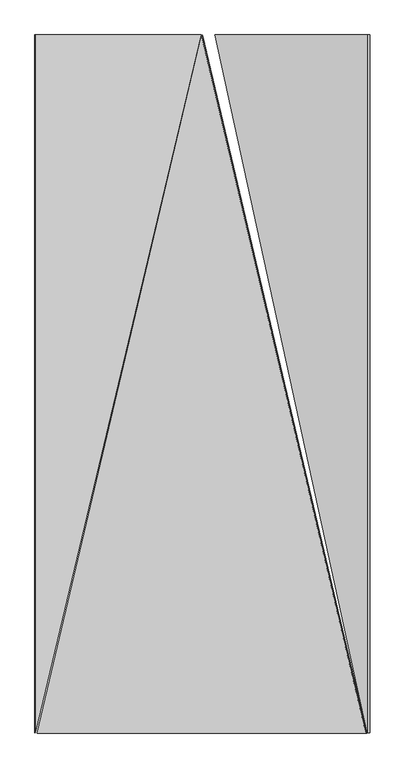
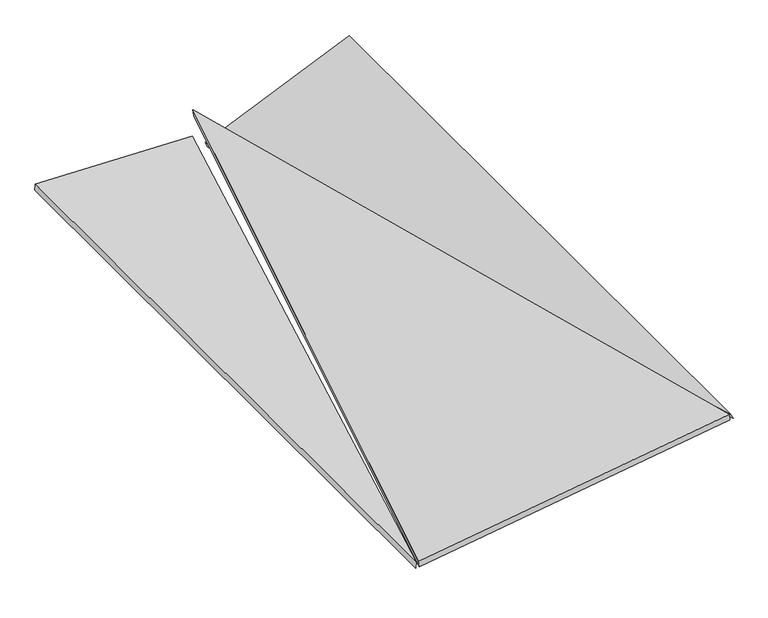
"""IFC4 building model written with IfcOpenShell, lengths in millimetres: proxy geometry, panel sufitowy 6 : panel sufitowy 6."""

from ifc_helpers import new_model, si_unit, frame, origin, place, context, project, spatial, polyline, outline, extrude, source, transform, mapped, element, save


def generic_models_bd13cf26(model_context):
    return source(origin(), model_context, "Body", "SweptSolid", [
        extrude(outline(polyline([(-900.9098917, 0.0), (1006.190989, 962.7191945), (1235.4098448, 0.0), (-900.9098917, 0.0)])), frame((548.5075406, 1457.4151922, 1266.4156755), z_axis=(-0.14780941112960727, 0.0, 0.9890158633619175), x_axis=(-0.22907637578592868, -0.9728062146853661, -0.03423569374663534)), (0.0, 0.0, 1.0), 20.0),
        extrude(outline(polyline([(-127.5, 0.0), (-127.5, -2079.0), (-622.5, 0.0), (-127.5, 0.0)])), frame((1370.9864149, 2335.0, 1422.701891), z_axis=(-0.398749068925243, 0.0, 0.9170600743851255), x_axis=(0.9170600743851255, 0.0, 0.398749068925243)), (0.0, 0.0, 1.0), 20.0),
        extrude(outline(polyline([(-127.5000001, 0.0), (-622.5, 0.0), (-127.5000001, 2079.0), (-127.5000001, 0.0)])), frame((127.6989244, 2335.0, 1225.9114404), z_axis=(0.02617694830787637, 0.0, 0.9996573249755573), x_axis=(-0.9996573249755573, 0.0, 0.02617694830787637)), (0.0, 0.0, 1.0), 20.0),
    ])


if __name__ == "__main__":
    model = new_model("IFC4")
    model_context = context("Model", 3, world=origin())
    ifc_project = project(units=[si_unit("LENGTHUNIT", "METRE", prefix="MILLI")], contexts=[model_context])
    site = spatial("IfcSite", under=ifc_project)
    building = spatial("IfcBuilding", under=site)
    placement = place(None, origin())
    generic_models_shape = generic_models_bd13cf26(model_context)
    element("IfcBuildingElementProxy", 1, Name="panel sufitowy 6 : panel sufitowy 6", ObjectType="panel sufitowy 6 : panel sufitowy 6", at=placement, inside=building, context=model_context, shape_type="MappedRepresentation", body=[
        mapped(generic_models_shape, transform((0.0, 0.0, 0.0), x_axis=(1.0, 0.0, 0.0), y_axis=(0.0, 1.0, 0.0), z_axis=(0.0, 0.0, 1.0))),
    ])
    save(model, "model.ifc")
